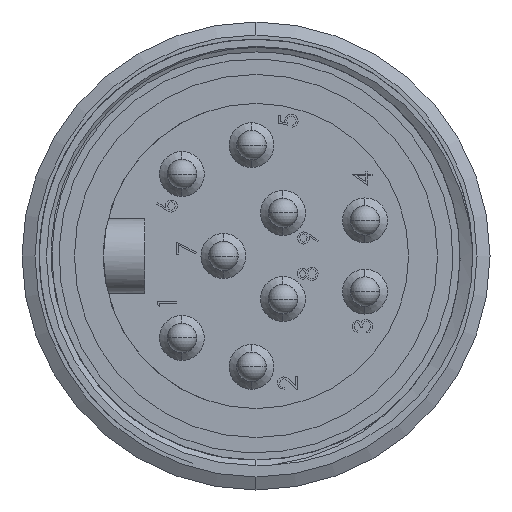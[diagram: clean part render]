
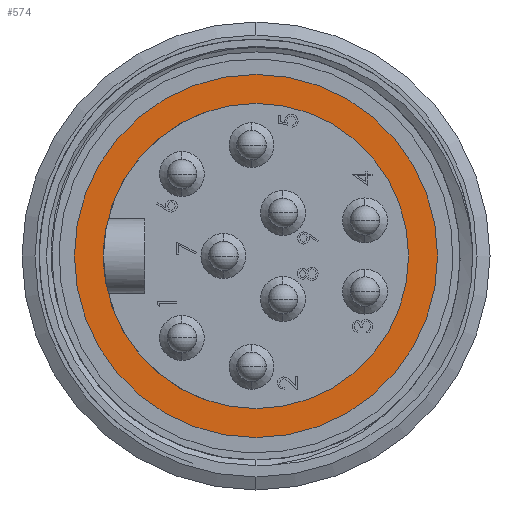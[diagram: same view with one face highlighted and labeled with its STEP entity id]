
A CAD part, left-side view. The second image highlights one B-rep face of the part: STEP entity #574.
In plain terms, the highlighted planar face has unit normal (-1, 0, 0).
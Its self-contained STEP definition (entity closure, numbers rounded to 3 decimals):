
#419 = ORIENTED_EDGE ( 'NONE', *, *, #18231, .T. ) ;
#502 = ORIENTED_EDGE ( 'NONE', *, *, #581, .T. ) ;
#574 = ADVANCED_FACE ( 'NONE', ( #19377, #19427 ), #19418, .F. ) ;
#575 = EDGE_LOOP ( 'NONE', ( #624, #626 ) ) ;
#581 = EDGE_CURVE ( 'NONE', #18125, #18175, #19325, .T. ) ;
#623 = EDGE_LOOP ( 'NONE', ( #419, #502 ) ) ;
#624 = ORIENTED_EDGE ( 'NONE', *, *, #625, .F. ) ;
#625 = EDGE_CURVE ( 'NONE', #18371, #18442, #19616, .T. ) ;
#626 = ORIENTED_EDGE ( 'NONE', *, *, #18367, .F. ) ;
#10726 = CARTESIAN_POINT ( 'NONE',  ( 0., 0., 0. ) ) ;
#10748 = CIRCLE ( 'NONE', #10753, 10.35 ) ;
#10753 = AXIS2_PLACEMENT_3D ( 'NONE', #10726, #10802, #10801 ) ;
#10761 = CARTESIAN_POINT ( 'NONE',  ( 0., 0., 10.35 ) ) ;
#10801 = DIRECTION ( 'NONE',  ( 0., 0., 1. ) ) ;
#10802 = DIRECTION ( 'NONE',  ( -1., 0., 0. ) ) ;
#11019 = CARTESIAN_POINT ( 'NONE',  ( 0., 0., -10.35 ) ) ;
#12240 = CARTESIAN_POINT ( 'NONE',  ( 0., 0., -12.319 ) ) ;
#12358 = CARTESIAN_POINT ( 'NONE',  ( 0., 0., 12.319 ) ) ;
#12536 = DIRECTION ( 'NONE',  ( 0., 0., 1. ) ) ;
#12537 = DIRECTION ( 'NONE',  ( -1., 0., 0. ) ) ;
#12545 = CARTESIAN_POINT ( 'NONE',  ( 0., 0., 0. ) ) ;
#12547 = AXIS2_PLACEMENT_3D ( 'NONE', #12545, #12537, #12536 ) ;
#12552 = CIRCLE ( 'NONE', #12547, 12.319 ) ;
#18125 = VERTEX_POINT ( 'NONE', #12240 ) ;
#18175 = VERTEX_POINT ( 'NONE', #12358 ) ;
#18231 = EDGE_CURVE ( 'NONE', #18175, #18125, #12552, .T. ) ;
#18367 = EDGE_CURVE ( 'NONE', #18442, #18371, #10748, .T. ) ;
#18371 = VERTEX_POINT ( 'NONE', #10761 ) ;
#18442 = VERTEX_POINT ( 'NONE', #11019 ) ;
#19319 = DIRECTION ( 'NONE',  ( 0., 0., 1. ) ) ;
#19320 = DIRECTION ( 'NONE',  ( -1., 0., 0. ) ) ;
#19321 = CARTESIAN_POINT ( 'NONE',  ( 0., 0., 0. ) ) ;
#19322 = AXIS2_PLACEMENT_3D ( 'NONE', #19321, #19320, #19319 ) ;
#19325 = CIRCLE ( 'NONE', #19322, 12.319 ) ;
#19377 = FACE_BOUND ( 'NONE', #575, .T. ) ;
#19383 = AXIS2_PLACEMENT_3D ( 'NONE', #19458, #19396, #19395 ) ;
#19395 = DIRECTION ( 'NONE',  ( 0., 0., -1. ) ) ;
#19396 = DIRECTION ( 'NONE',  ( 1., 0., 0. ) ) ;
#19418 = PLANE ( 'NONE',  #19383 ) ;
#19427 = FACE_OUTER_BOUND ( 'NONE', #623, .T. ) ;
#19458 = CARTESIAN_POINT ( 'NONE',  ( 0., 10.35, 0. ) ) ;
#19587 = DIRECTION ( 'NONE',  ( 0., 0., 1. ) ) ;
#19588 = DIRECTION ( 'NONE',  ( -1., 0., 0. ) ) ;
#19589 = CARTESIAN_POINT ( 'NONE',  ( 0., 0., 0. ) ) ;
#19607 = AXIS2_PLACEMENT_3D ( 'NONE', #19589, #19588, #19587 ) ;
#19616 = CIRCLE ( 'NONE', #19607, 10.35 ) ;
